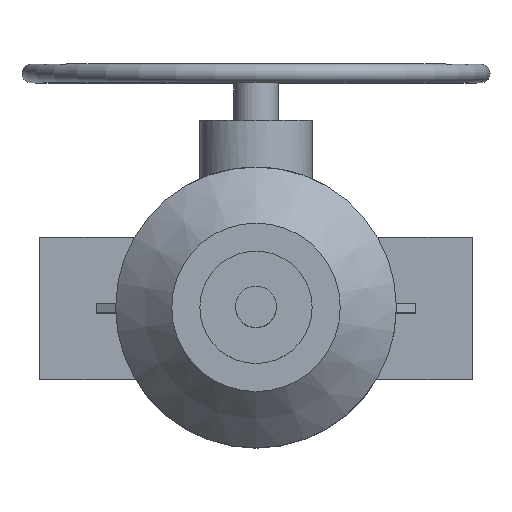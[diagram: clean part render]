
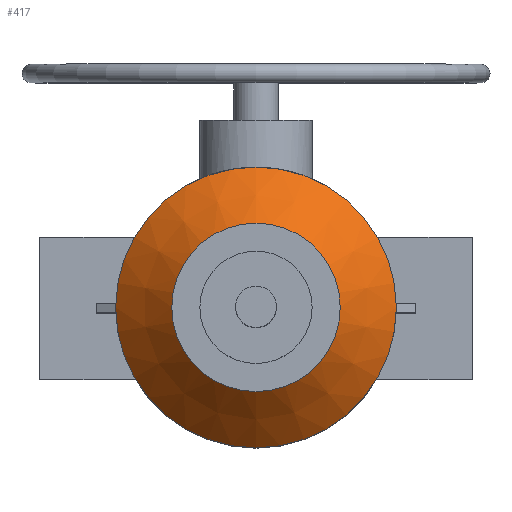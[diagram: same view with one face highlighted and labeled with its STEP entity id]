
A CAD part, top view. The second image highlights one B-rep face of the part: STEP entity #417.
In plain terms, the highlighted conical face has half-angle 45 degrees and reference radius 60 mm.
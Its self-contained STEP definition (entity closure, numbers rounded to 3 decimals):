
#417=ADVANCED_FACE('',(#1412,#1414),#1416,.T.);
#1412=FACE_BOUND('',#1413,.T.);
#1413=EDGE_LOOP('',(#2238,#2239));
#1414=FACE_OUTER_BOUND('',#1415,.T.);
#1415=EDGE_LOOP('',(#2240));
#1416=CONICAL_SURFACE('',#1417,60.,0.785);
#1417=AXIS2_PLACEMENT_3D('',#1418,#1419,#1420);
#1418=CARTESIAN_POINT('',(0.,0.,534.));
#1419=DIRECTION('',(0.,0.,-1.));
#1420=DIRECTION('',(0.,-1.,0.));
#2238=ORIENTED_EDGE('',*,*,#2644,.F.);
#2239=ORIENTED_EDGE('',*,*,#2643,.F.);
#2240=ORIENTED_EDGE('',*,*,#2641,.T.);
#2641=EDGE_CURVE('',#2965,#2965,#2966,.T.);
#2643=EDGE_CURVE('',#2967,#2969,#2970,.T.);
#2644=EDGE_CURVE('',#2969,#2967,#2971,.T.);
#2965=VERTEX_POINT('',#3594);
#2966=CIRCLE('',#3595,45.);
#2967=VERTEX_POINT('',#3599);
#2969=VERTEX_POINT('',#3763);
#2970=CIRCLE('',#3764,75.);
#2971=CIRCLE('',#3768,75.);
#3594=CARTESIAN_POINT('',(0.,-45.,549.));
#3595=AXIS2_PLACEMENT_3D('',#3596,#3597,#3598);
#3596=CARTESIAN_POINT('',(0.,0.,549.));
#3597=DIRECTION('',(0.,0.,-1.));
#3598=DIRECTION('',(0.,-1.,0.));
#3599=CARTESIAN_POINT('',(0.,75.,519.));
#3763=CARTESIAN_POINT('',(0.,-75.,519.));
#3764=AXIS2_PLACEMENT_3D('',#3765,#3766,#3767);
#3765=CARTESIAN_POINT('',(0.,0.,519.));
#3766=DIRECTION('',(0.,0.,-1.));
#3767=DIRECTION('',(0.,1.,0.));
#3768=AXIS2_PLACEMENT_3D('',#3769,#3770,#3771);
#3769=CARTESIAN_POINT('',(0.,0.,519.));
#3770=DIRECTION('',(0.,0.,-1.));
#3771=DIRECTION('',(0.,-1.,0.));
